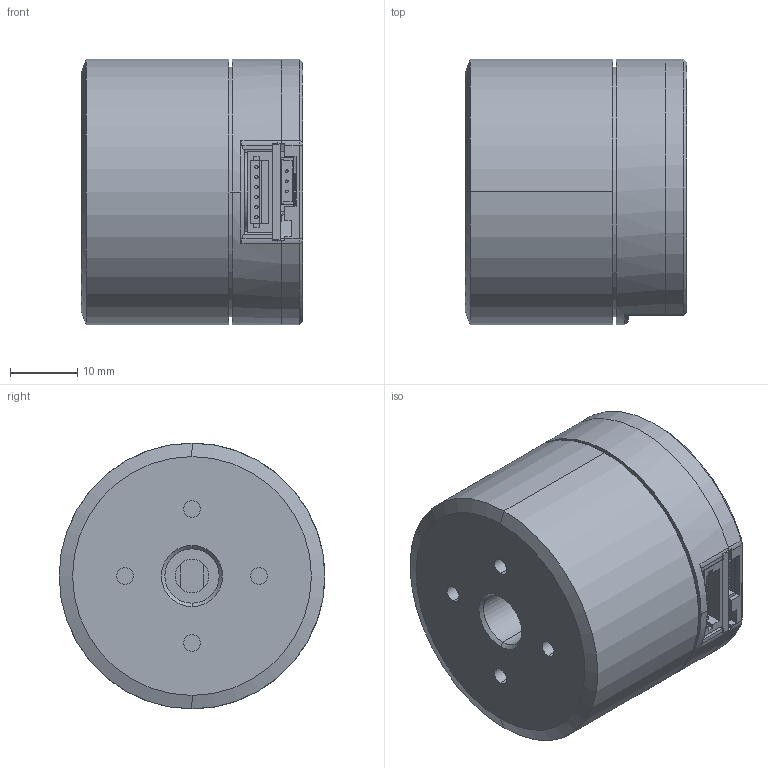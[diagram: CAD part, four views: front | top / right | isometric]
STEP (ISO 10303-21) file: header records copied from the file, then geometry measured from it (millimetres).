
FILE_DESCRIPTION (( 'STEP AP214' ), '1' );
FILE_NAME ('MS4015v2.STEP', '2022-07-26T14:22:05', ( '' ), ( '' ), 'SwSTEP 2.0', 'SolidWorks 2018', '' );
FILE_SCHEMA (( 'AUTOMOTIVE_DESIGN' ));
Length unit declared in the file: millimetre
Products named in the file (2): MS4015v2
Bounding box: 33 x 39.6 x 39.6 mm (x, y, z)
Volume: 31799.5 mm3; surface area: 17428.8 mm2
Topology: 36 solids, 36 shells, 993 faces, 2531 edges, 1656 vertices
Faces by surface type: plane 529, cylinder 319, bspline 110, cone 35
Entity records: 44341 total; most frequent: CARTESIAN_POINT 9242, ORIENTED_EDGE 5030, DIRECTION 4720, EDGE_CURVE 2515, VERTEX_POINT 1656, AXIS2_PLACEMENT_3D 1594, VECTOR 1532, LINE 1532
